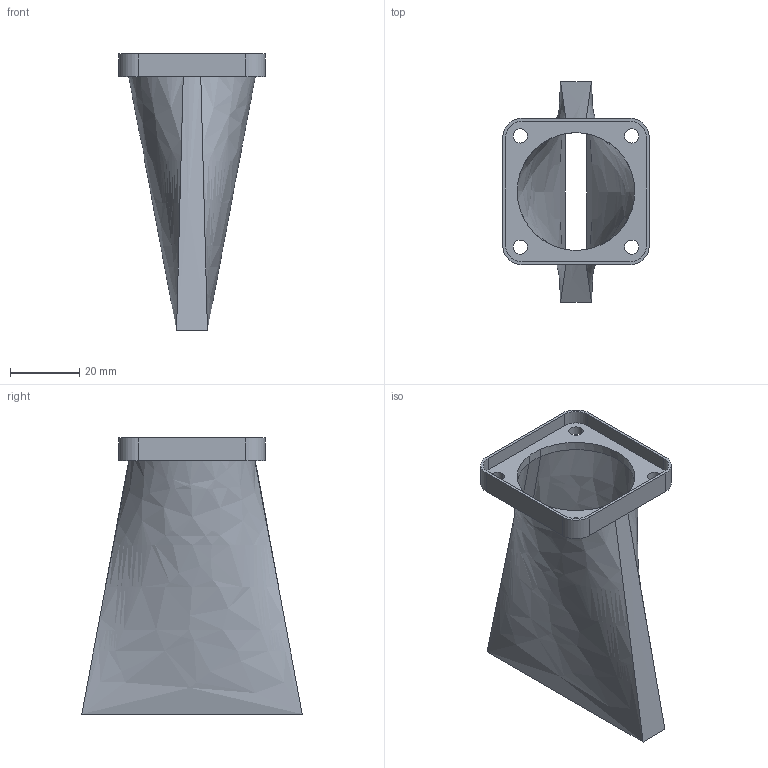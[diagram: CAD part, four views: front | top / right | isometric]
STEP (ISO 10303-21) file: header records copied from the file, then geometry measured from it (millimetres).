
FILE_DESCRIPTION (( 'STEP AP203' ), '1' );
FILE_NAME ('Type_A_Air_Duct.STEP', '2026-07-26T16:24:30', ( '' ), ( '' ), 'SwSTEP 2.0', 'SolidWorks 2024', '' );
FILE_SCHEMA (( 'CONFIG_CONTROL_DESIGN' ));
Length unit declared in the file: inch
Products named in the file (1): Type_A_Air_Duct
Bounding box: 42.14 x 63.5 x 79.52 mm (x, y, z)
Volume: 13615.7 mm3; surface area: 21142.1 mm2
Topology: 1 solids, 1 shells, 40 faces, 113 edges, 77 vertices
Faces by surface type: cylinder 16, plane 12, bspline 12
Entity records: 5731 total; most frequent: CARTESIAN_POINT 4636, ORIENTED_EDGE 226, DIRECTION 182, EDGE_CURVE 113, VERTEX_POINT 77, AXIS2_PLACEMENT_3D 65, LINE 52, EDGE_LOOP 52
